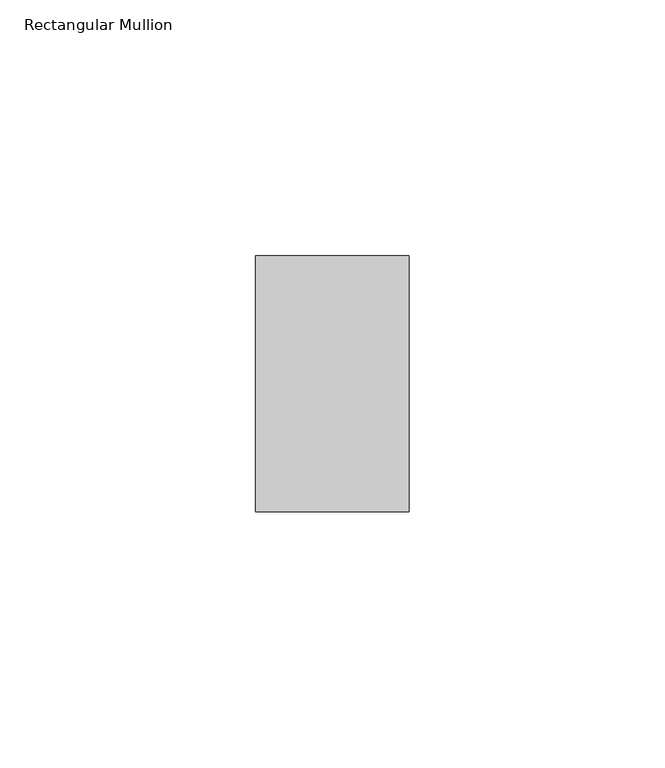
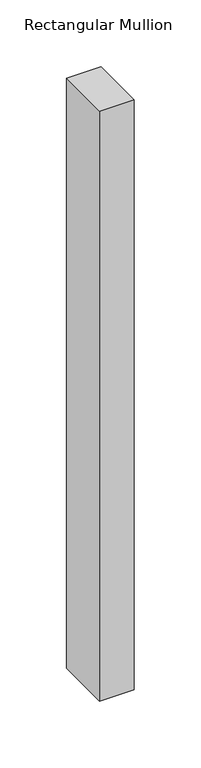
"""IFC4 building model written with IfcOpenShell, lengths in millimetres: member geometry, Rectangular Mullion : ARQ_TV_MULL_50x30mm."""

from ifc_helpers import new_model, si_unit, frame, origin, place, context, project, spatial, polyline, outline, extrude, source, transform, mapped, element, save


def rectangular_mullion_387845b0(model_context):
    return source(origin(), model_context, "Body", "SweptSolid", [
        extrude(outline(polyline([(0.0, 25.0), (0.0, -25.0), (-30.0, -25.0), (-30.0, 25.0), (0.0, 25.0)])), frame((0.0, 0.0, -541.0298429), z_axis=(0.0, 0.0, 1.0), x_axis=(1.0, 0.0, 0.0)), (0.0, 0.0, 1.0), 541.0298429),
    ])


if __name__ == "__main__":
    model = new_model("IFC4")
    model_context = context("Model", 3, world=origin())
    ifc_project = project(units=[si_unit("LENGTHUNIT", "METRE", prefix="MILLI")], contexts=[model_context])
    site = spatial("IfcSite", under=ifc_project)
    building = spatial("IfcBuilding", under=site)
    placement = place(None, origin())
    rectangular_mullion_shape = rectangular_mullion_387845b0(model_context)
    element("IfcMember", 1, ObjectType="Rectangular Mullion : ARQ_TV_MULL_50x30mm", at=placement, inside=building, context=model_context, shape_type="MappedRepresentation", body=[
        mapped(rectangular_mullion_shape, transform((0.0, 0.0, 0.0), x_axis=(1.0, 0.0, 0.0), y_axis=(0.0, 1.0, 0.0), z_axis=(0.0, 0.0, 1.0))),
    ])
    save(model, "model.ifc")
